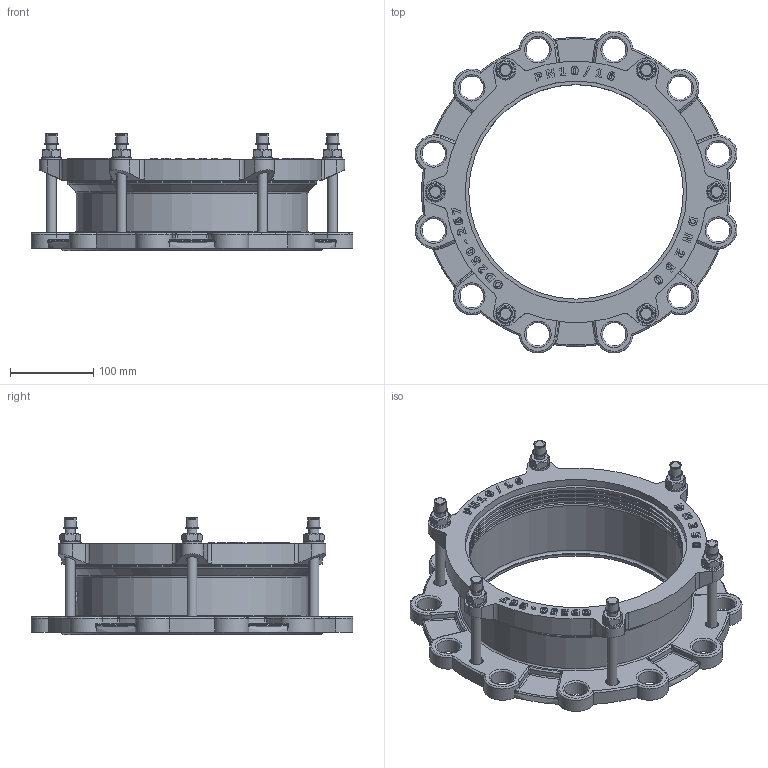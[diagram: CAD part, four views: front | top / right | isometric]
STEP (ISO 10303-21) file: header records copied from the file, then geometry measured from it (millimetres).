
FILE_DESCRIPTION(('STEP AP203'), '1');
FILE_NAME('Ôëàíöåâûé àäàïòåð', '', ('UNSPECIFIED'), ('UNSPECIFIED'), 'C3D Converter', 'C3D Toolkit', '');
FILE_SCHEMA(('CONFIG_CONTROL_DESIGN'));
Length unit declared in the file: millimetre
Assembly tree (27 placements, depth 2):
  (unnamed)
    (unnamed)
    (unnamed)  x6
    (unnamed)  x6
    (unnamed)  x6
    (unnamed)  x6
    (unnamed)
    (unnamed)
Bounding box: 387.9 x 387.9 x 141.2 mm (x, y, z)
Volume: 2053894.6 mm3; surface area: 545650.7 mm2
Topology: 27 solids, 27 shells, 1250 faces, 3115 edges, 1908 vertices
Faces by surface type: plane 391, extrusion 338, cylinder 290, torus 101, bspline 48, cone 46, sphere 36
Full cylindrical faces by diameter (mm): 12 x18, 13 x6, 13.478 x1, 14 x12, 14.4 x6, 16.8 x6, 24 x6, 28 x12, 258.5 x5, 262.75 x3, 267 x2, 273 x1, 279 x2, 300 x1, 303 x2
Entity records: 46677 total; most frequent: CARTESIAN_POINT 18212, ORIENTED_EDGE 5096, DIRECTION 4056, EDGE_CURVE 2548, VERTEX_POINT 1648, VECTOR 1402, AXIS2_PLACEMENT_3D 1327, EDGE_LOOP 1254
